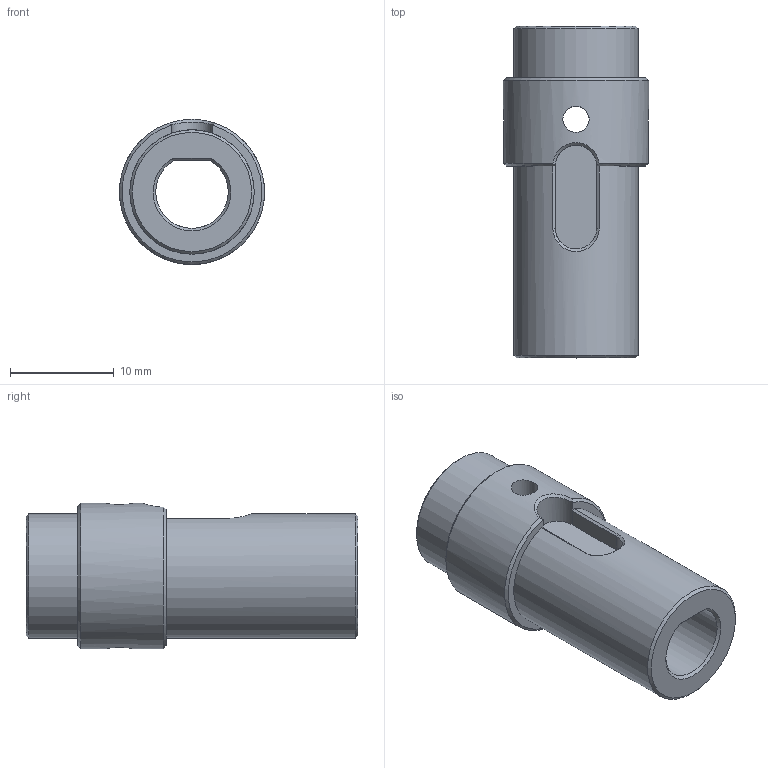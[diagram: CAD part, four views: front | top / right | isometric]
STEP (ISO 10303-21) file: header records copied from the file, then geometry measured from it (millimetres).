
FILE_DESCRIPTION(/* description */ (''),/* implementation_level */ '2;1');
FILE_NAME(/* name */ 'Lead Screw side shaft.step',/* time_stamp */ '2026-10-23T15:27:18+05:30',/* author */ (''),/* organization */ (''),/* preprocessor_version */ 'ST-DEVELOPER v20.2',/* originating_system */ 'Autodesk Translation Framework v15.15.0.0',/* authorisation */ '');
FILE_SCHEMA (('AUTOMOTIVE_DESIGN { 1 0 10303 214 3 1 1 }'));
Length unit declared in the file: millimetre
Products named in the file (1): 2026-10-23-15-27-18-165
Bounding box: 14 x 32 x 14 mm (x, y, z)
Volume: 2646 mm3; surface area: 2245.3 mm2
Topology: 1 solids, 1 shells, 28 faces, 72 edges, 46 vertices
Faces by surface type: plane 12, cylinder 8, cone 6, bspline 2
Full cylindrical faces by diameter (mm): 2.529 x2, 12 x2, 14 x1
Entity records: 1238 total; most frequent: CARTESIAN_POINT 537, ORIENTED_EDGE 144, DIRECTION 127, EDGE_CURVE 72, AXIS2_PLACEMENT_3D 48, VERTEX_POINT 46, EDGE_LOOP 34, LINE 31
